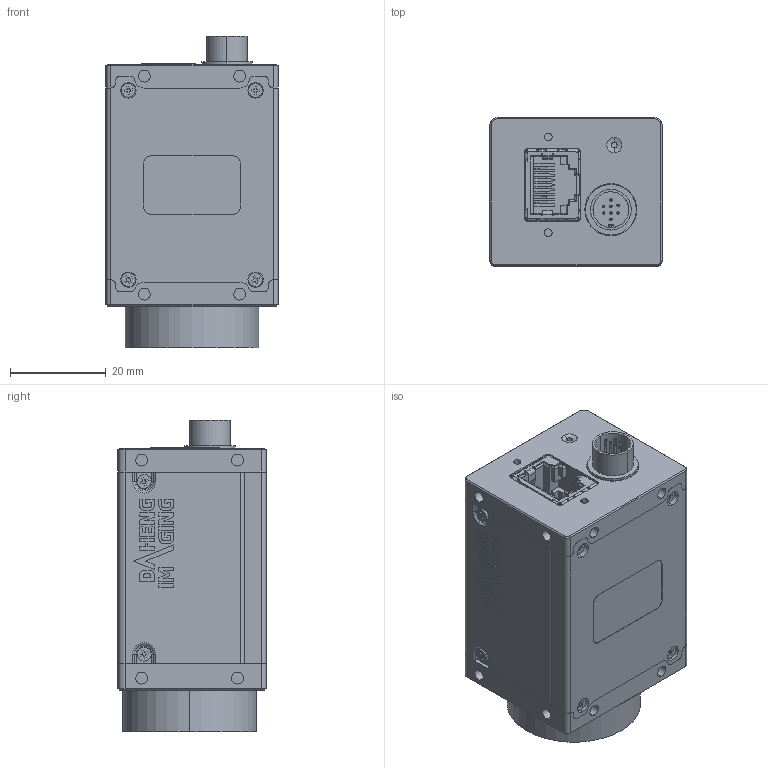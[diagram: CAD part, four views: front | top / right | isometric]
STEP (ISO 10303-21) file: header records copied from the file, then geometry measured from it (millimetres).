
FILE_DESCRIPTION (( 'STEP AP203' ), '1' );
FILE_NAME ('me2p_poe_user_s1.0.0.STEP', '2020-06-29T09:19:31', ( 'DH' ), ( '' ), 'SwSTEP 2.0', 'SolidWorks 2016', '' );
FILE_SCHEMA (( 'CONFIG_CONTROL_DESIGN' ));
Products named in the file (1): me2p_poe_user_s1.0.0
Bounding box: 36 x 31 x 65.1 mm (x, y, z)
Volume: 50782.2 mm3; surface area: 29157.2 mm2
Topology: 11 solids, 19 shells, 1773 faces, 4711 edges, 3043 vertices
Faces by surface type: plane 997, cylinder 667, cone 47, torus 40, bspline 22
Entity records: 60441 total; most frequent: CARTESIAN_POINT 16484, ORIENTED_EDGE 9390, DIRECTION 8910, EDGE_CURVE 4695, LINE 3106, VECTOR 3106, VERTEX_POINT 3043, AXIS2_PLACEMENT_3D 2902
